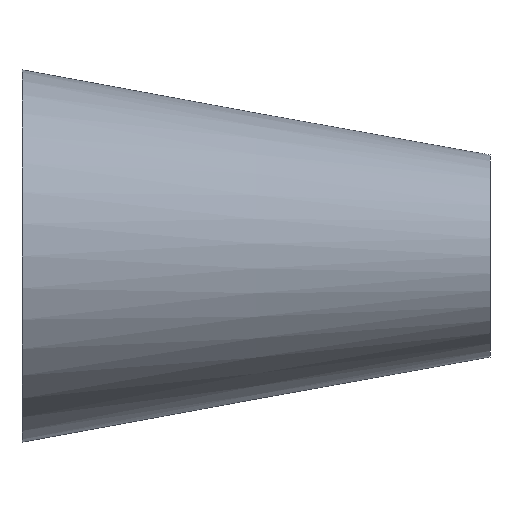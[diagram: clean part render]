
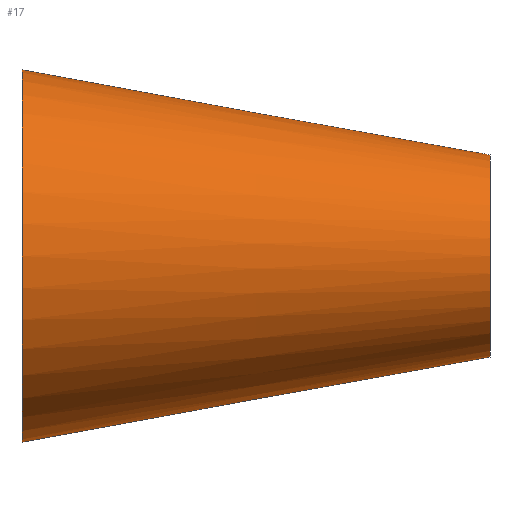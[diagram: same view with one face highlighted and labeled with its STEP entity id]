
A CAD part, front view. The second image highlights one B-rep face of the part: STEP entity #17.
In plain terms, the highlighted free-form (B-spline) face has degree [14, 1] with [15, 2] control points.
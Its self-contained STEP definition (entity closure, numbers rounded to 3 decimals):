
#17 = ADVANCED_FACE('',(#18),#31,.T.);
#18 = FACE_BOUND('',#19,.T.);
#19 = EDGE_LOOP('',(#20,#80,#102,#129));
#20 = ORIENTED_EDGE('',*,*,#21,.T.);
#21 = EDGE_CURVE('',#22,#22,#24,.T.);
#22 = VERTEX_POINT('',#23);
#23 = CARTESIAN_POINT('',(0.,17.5,0.));
#24 = SURFACE_CURVE('',#25,(#30,#68),.PCURVE_S1.);
#25 = CIRCLE('',#26,17.5);
#26 = AXIS2_PLACEMENT_3D('',#27,#28,#29);
#27 = CARTESIAN_POINT('',(0.,0.,0.));
#28 = DIRECTION('',(1.,0.,0.));
#29 = DIRECTION('',(0.,1.,0.));
#30 = PCURVE('',#31,#62);
#31 = B_SPLINE_SURFACE_WITH_KNOTS('',14,1,(
    (#32,#33)
    ,(#34,#35)
    ,(#36,#37)
    ,(#38,#39)
    ,(#40,#41)
    ,(#42,#43)
    ,(#44,#45)
    ,(#46,#47)
    ,(#48,#49)
    ,(#50,#51)
    ,(#52,#53)
    ,(#54,#55)
    ,(#56,#57)
    ,(#58,#59)
    ,(#60,#61
    )),.UNSPECIFIED.,.T.,.F.,.F.,(15,15),(2,2),(0.,6.283),(0.,1.
    ),.PIECEWISE_BEZIER_KNOTS.);
#32 = CARTESIAN_POINT('',(0.,17.5,0.));
#33 = CARTESIAN_POINT('',(44.,1.5,0.));
#34 = CARTESIAN_POINT('',(0.,17.5,7.854));
#35 = CARTESIAN_POINT('',(44.,1.5,4.264)
  );
#36 = CARTESIAN_POINT('',(0.,13.704,15.708));
#37 = CARTESIAN_POINT('',(44.,-0.561,8.527
    ));
#38 = CARTESIAN_POINT('',(0.,6.112,21.574));
#39 = CARTESIAN_POINT('',(44.,-4.682,
    11.712));
#40 = CARTESIAN_POINT('',(0.,-4.141,23.466));
#41 = CARTESIAN_POINT('',(44.,-10.248,
    12.739));
#42 = CARTESIAN_POINT('',(0.,-14.784,20.107));
#43 = CARTESIAN_POINT('',(44.,-16.025,
    10.915));
#44 = CARTESIAN_POINT('',(0.,-22.908,11.653));
#45 = CARTESIAN_POINT('',(44.,-20.436,6.326
    ));
#46 = CARTESIAN_POINT('',(0.,-25.967,0.));
#47 = CARTESIAN_POINT('',(44.,-22.096,
    0.));
#48 = CARTESIAN_POINT('',(0.,-22.908,-11.653));
#49 = CARTESIAN_POINT('',(44.,-20.436,
    -6.326));
#50 = CARTESIAN_POINT('',(0.,-14.784,-20.107));
#51 = CARTESIAN_POINT('',(44.,-16.025,-10.915
    ));
#52 = CARTESIAN_POINT('',(0.,-4.141,-23.466));
#53 = CARTESIAN_POINT('',(44.,-10.248,
    -12.739));
#54 = CARTESIAN_POINT('',(0.,6.112,-21.574));
#55 = CARTESIAN_POINT('',(44.,-4.682,
    -11.712));
#56 = CARTESIAN_POINT('',(0.,13.704,-15.708));
#57 = CARTESIAN_POINT('',(44.,-0.561,
    -8.527));
#58 = CARTESIAN_POINT('',(0.,17.5,-7.854));
#59 = CARTESIAN_POINT('',(44.,1.5,-4.264)
  );
#60 = CARTESIAN_POINT('',(0.,17.5,0.));
#61 = CARTESIAN_POINT('',(44.,1.5,0.));
#62 = DEFINITIONAL_REPRESENTATION('',(#63),#67);
#63 = LINE('',#64,#65);
#64 = CARTESIAN_POINT('',(0.,0.));
#65 = VECTOR('',#66,1.);
#66 = DIRECTION('',(1.,0.));
#67 = ( GEOMETRIC_REPRESENTATION_CONTEXT(2) 
PARAMETRIC_REPRESENTATION_CONTEXT() REPRESENTATION_CONTEXT('2D SPACE',''
  ) );
#68 = PCURVE('',#69,#74);
#69 = PLANE('',#70);
#70 = AXIS2_PLACEMENT_3D('',#71,#72,#73);
#71 = CARTESIAN_POINT('',(0.,0.,0.));
#72 = DIRECTION('',(1.,0.,0.));
#73 = DIRECTION('',(0.,1.,0.));
#74 = DEFINITIONAL_REPRESENTATION('',(#75),#79);
#75 = CIRCLE('',#76,17.5);
#76 = AXIS2_PLACEMENT_2D('',#77,#78);
#77 = CARTESIAN_POINT('',(0.,0.));
#78 = DIRECTION('',(1.,0.));
#79 = ( GEOMETRIC_REPRESENTATION_CONTEXT(2) 
PARAMETRIC_REPRESENTATION_CONTEXT() REPRESENTATION_CONTEXT('2D SPACE',''
  ) );
#80 = ORIENTED_EDGE('',*,*,#81,.T.);
#81 = EDGE_CURVE('',#22,#82,#84,.T.);
#82 = VERTEX_POINT('',#83);
#83 = CARTESIAN_POINT('',(44.,1.5,0.));
#84 = SEAM_CURVE('',#85,(#88,#95),.PCURVE_S1.);
#85 = B_SPLINE_CURVE_WITH_KNOTS('',1,(#86,#87),.UNSPECIFIED.,.F.,.F.,(2,
    2),(0.,1.),.PIECEWISE_BEZIER_KNOTS.);
#86 = CARTESIAN_POINT('',(0.,17.5,0.));
#87 = CARTESIAN_POINT('',(44.,1.5,0.));
#88 = PCURVE('',#31,#89);
#89 = DEFINITIONAL_REPRESENTATION('',(#90),#94);
#90 = LINE('',#91,#92);
#91 = CARTESIAN_POINT('',(6.283,0.));
#92 = VECTOR('',#93,1.);
#93 = DIRECTION('',(0.,1.));
#94 = ( GEOMETRIC_REPRESENTATION_CONTEXT(2) 
PARAMETRIC_REPRESENTATION_CONTEXT() REPRESENTATION_CONTEXT('2D SPACE',''
  ) );
#95 = PCURVE('',#31,#96);
#96 = DEFINITIONAL_REPRESENTATION('',(#97),#101);
#97 = LINE('',#98,#99);
#98 = CARTESIAN_POINT('',(0.,0.));
#99 = VECTOR('',#100,1.);
#100 = DIRECTION('',(0.,1.));
#101 = ( GEOMETRIC_REPRESENTATION_CONTEXT(2) 
PARAMETRIC_REPRESENTATION_CONTEXT() REPRESENTATION_CONTEXT('2D SPACE',''
  ) );
#102 = ORIENTED_EDGE('',*,*,#103,.F.);
#103 = EDGE_CURVE('',#82,#82,#104,.T.);
#104 = SURFACE_CURVE('',#105,(#110,#117),.PCURVE_S1.);
#105 = CIRCLE('',#106,9.5);
#106 = AXIS2_PLACEMENT_3D('',#107,#108,#109);
#107 = CARTESIAN_POINT('',(44.,-8.,0.));
#108 = DIRECTION('',(1.,0.,0.));
#109 = DIRECTION('',(0.,1.,0.));
#110 = PCURVE('',#31,#111);
#111 = DEFINITIONAL_REPRESENTATION('',(#112),#116);
#112 = LINE('',#113,#114);
#113 = CARTESIAN_POINT('',(0.,1.));
#114 = VECTOR('',#115,1.);
#115 = DIRECTION('',(1.,0.));
#116 = ( GEOMETRIC_REPRESENTATION_CONTEXT(2) 
PARAMETRIC_REPRESENTATION_CONTEXT() REPRESENTATION_CONTEXT('2D SPACE',''
  ) );
#117 = PCURVE('',#118,#123);
#118 = PLANE('',#119);
#119 = AXIS2_PLACEMENT_3D('',#120,#121,#122);
#120 = CARTESIAN_POINT('',(44.,-8.,0.));
#121 = DIRECTION('',(1.,0.,0.));
#122 = DIRECTION('',(0.,1.,0.));
#123 = DEFINITIONAL_REPRESENTATION('',(#124),#128);
#124 = CIRCLE('',#125,9.5);
#125 = AXIS2_PLACEMENT_2D('',#126,#127);
#126 = CARTESIAN_POINT('',(0.,0.));
#127 = DIRECTION('',(1.,0.));
#128 = ( GEOMETRIC_REPRESENTATION_CONTEXT(2) 
PARAMETRIC_REPRESENTATION_CONTEXT() REPRESENTATION_CONTEXT('2D SPACE',''
  ) );
#129 = ORIENTED_EDGE('',*,*,#81,.F.);
